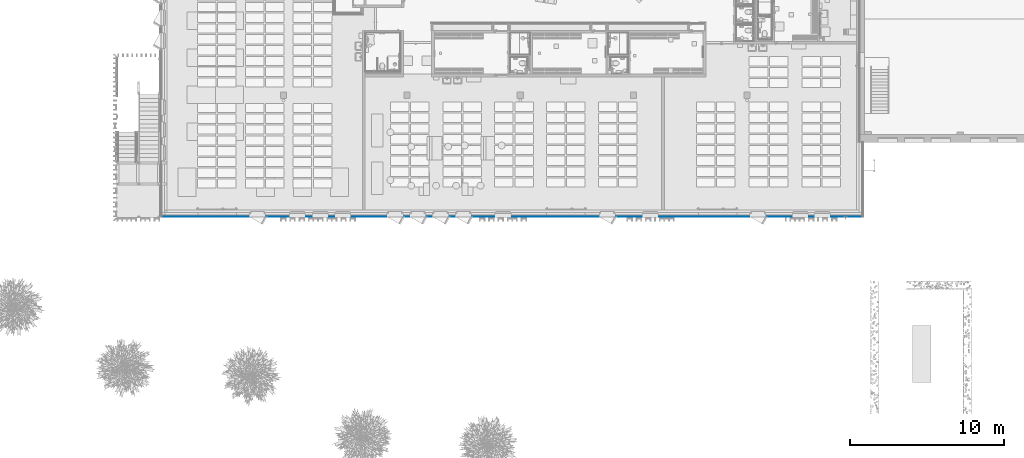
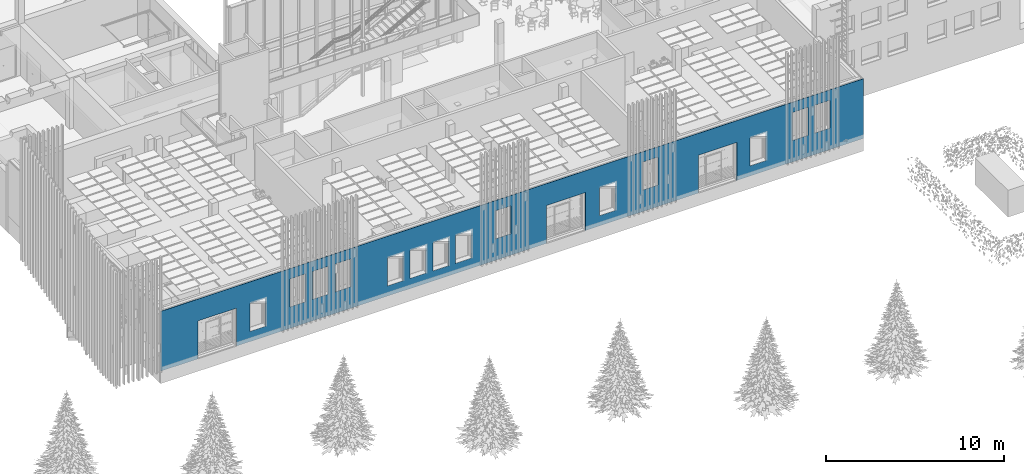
# One storey, part 177 of 301: 1 building element part, 20 openings, 1 element without a shape of its own.
"""IFC2X3 building model written with IfcOpenShell, lengths in millimetres."""

from ifc_helpers import new_model, entity, si_unit, converted_unit, derived_unit, money_unit, direction, frame, origin_with_axes, place, context, subcontext, project, spatial, faceted_brep, material, type_object, element, aggregate, save


model = new_model("IFC2X3")

# Units and contexts
model_context = context("Model", 3, precision=0.01, world=origin_with_axes(), true_north=direction((0.0, 1.0)))
body_context = subcontext(model_context, "Body", "Model", "MODEL_VIEW")
ifc_project = project(units=[si_unit("LENGTHUNIT", "METRE", prefix="MILLI"), si_unit("AREAUNIT", "SQUARE_METRE"), si_unit("VOLUMEUNIT", "CUBIC_METRE"), converted_unit("PLANEANGLEUNIT", "DEGREE", entity("IfcPlaneAngleMeasure", 0.0174532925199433), si_unit("PLANEANGLEUNIT", "RADIAN"), dimensions=[0, 0, 0, 0, 0, 0, 0]), money_unit("EUR"), converted_unit("TIMEUNIT", "Year", entity("IfcTimeMeasure", 31557600.0), si_unit("TIMEUNIT", "SECOND"), dimensions=[0, 0, 1, 0, 0, 0, 0]), si_unit("MASSUNIT", "GRAM", prefix="KILO"), si_unit("THERMODYNAMICTEMPERATUREUNIT", "DEGREE_CELSIUS"), si_unit("LUMINOUSINTENSITYUNIT", "LUMEN"), si_unit("ENERGYUNIT", "JOULE", prefix="MEGA"), derived_unit("THERMALCONDUCTANCEUNIT", [(si_unit("POWERUNIT", "WATT"), 1), (si_unit("LENGTHUNIT", "METRE"), -1), (si_unit("THERMODYNAMICTEMPERATUREUNIT", "KELVIN"), -1)]), derived_unit("SPECIFICHEATCAPACITYUNIT", [(si_unit("ENERGYUNIT", "JOULE"), 1), (si_unit("MASSUNIT", "GRAM", prefix="KILO"), -1), (si_unit("THERMODYNAMICTEMPERATUREUNIT", "KELVIN"), -1)]), derived_unit("MASSDENSITYUNIT", [(si_unit("MASSUNIT", "GRAM", prefix="KILO"), 1), (si_unit("VOLUMEUNIT", "CUBIC_METRE"), -1)])], contexts=[model_context])

# Site, building, storey
site_placement = place(None, frame((0.0, 0.0, 8650.0), z_axis=(0.0, 0.0, 1.0), x_axis=(1.0, 0.0, 0.0)))
site = spatial("IfcSite", under=ifc_project, at=site_placement, Name="43301:001:0844", CompositionType="ELEMENT")
building_placement = place(site_placement, origin_with_axes())
building = spatial("IfcBuilding", under=site, at=building_placement, Name="Kuressaare Ametikooli tuulikute mehaanikute õppekorpus", CompositionType="ELEMENT")
storey_placement = place(building_placement, origin_with_axes())
storey = spatial("IfcBuildingStorey", under=building, at=storey_placement, Name="1.korrus", CompositionType="ELEMENT", Elevation=0.0)

# Wall, openings, building element part
wall_type = type_object("IfcWallType", Name="VS1 437", PredefinedType="NOTDEFINED")
wall_placement = place(storey_placement, frame((133024.9464416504, 9123.838490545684, 0.0), z_axis=(0.0, 0.0, 1.0), x_axis=(-1.0, 0.0, 0.0)))
wall = element("IfcWall", 1, at=wall_placement, inside=storey, type_object=wall_type, Name="Sisesein")
opening_1_placement = place(wall_placement, frame((26976.99415685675, 0.0, 700.0), z_axis=(0.0, 0.0, 1.0), x_axis=(1.0, 0.0, 0.0)))
element("IfcOpeningElement", 2, at=opening_1_placement, cuts=wall, Name="A-1g", context=body_context, shape_type="Brep", body=[
    faceted_brep([(-504.9999999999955, 219.9999999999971, 0.0), (-504.9999999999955, 219.9999999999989, 1910.0), (-504.9999999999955, 437.9999999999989, 1910.0), (-504.9999999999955, 437.9999999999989, 0.0), (-504.9999999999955, -1.000000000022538, 0.0), (-504.9999999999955, -1.000000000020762, 1910.0), (504.9999999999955, 219.9999999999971, 1910.0), (504.9999999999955, 437.9999999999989, 1910.0), (504.9999999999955, -1.000000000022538, 1910.0), (504.9999999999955, 437.9999999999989, 0.0), (504.9999999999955, 219.9999999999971, 0.0), (504.9999999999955, -1.000000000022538, 0.0)], [[[0, 1, 2, 3]], [[1, 0, 4, 5]], [[6, 7, 2, 1, 5, 8]], [[7, 9, 3, 2]], [[0, 3, 9, 10, 11, 4]], [[5, 4, 11, 8]], [[6, 10, 9, 7]], [[10, 6, 8, 11]]]),
])
opening_2_placement = place(wall_placement, frame((29926.99415685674, 0.0, 700.0000000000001), z_axis=(0.0, 0.0, 1.0), x_axis=(1.0, 0.0, 0.0)))
element("IfcOpeningElement", 3, at=opening_2_placement, cuts=wall, Name="A-1g", context=body_context, shape_type="Brep", body=[
    faceted_brep([(-504.9999999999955, 219.9999999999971, 0.0), (-504.9999999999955, 219.9999999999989, 1910.0), (-504.9999999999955, 437.9999999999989, 1910.0), (-504.9999999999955, 437.9999999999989, 0.0), (-504.9999999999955, -1.000000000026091, 0.0), (-504.9999999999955, -1.000000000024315, 1910.0), (504.9999999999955, 219.9999999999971, 1910.0), (504.9999999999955, 437.9999999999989, 1910.0), (504.9999999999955, -1.000000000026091, 1910.0), (504.9999999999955, 437.9999999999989, 0.0), (504.9999999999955, 219.9999999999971, 0.0), (504.9999999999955, -1.000000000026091, 0.0)], [[[0, 1, 2, 3]], [[1, 0, 4, 5]], [[6, 7, 2, 1, 5, 8]], [[7, 9, 3, 2]], [[0, 3, 9, 10, 11, 4]], [[5, 4, 11, 8]], [[6, 10, 9, 7]], [[10, 6, 8, 11]]]),
])
opening_3_placement = place(wall_placement, frame((2241.190539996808, 0.0, 1475.000000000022), z_axis=(0.0, 0.0, 1.0), x_axis=(1.0, 0.0, 0.0)))
element("IfcOpeningElement", 4, at=opening_3_placement, cuts=wall, Name="A-1g,SE", context=body_context, shape_type="Brep", body=[
    faceted_brep([(-504.9999999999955, 220.0000000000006, 0.0), (-504.9999999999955, 220.0000000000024, 1910.0), (-504.9999999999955, 437.9999999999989, 1910.0), (-504.9999999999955, 437.9999999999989, 0.0), (-504.9999999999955, -1.000000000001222, 0.0), (-504.9999999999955, -0.9999999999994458, 1910.0), (504.9999999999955, 220.0000000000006, 1910.0), (504.9999999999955, 437.9999999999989, 1910.0), (504.9999999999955, -1.000000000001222, 1910.0), (504.9999999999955, 437.9999999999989, 0.0), (504.9999999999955, 220.0000000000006, 0.0), (504.9999999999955, -1.000000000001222, 0.0)], [[[0, 1, 2, 3]], [[1, 0, 4, 5]], [[6, 7, 2, 1, 5, 8]], [[7, 9, 3, 2]], [[0, 3, 9, 10, 11, 4]], [[5, 4, 11, 8]], [[6, 10, 9, 7]], [[10, 6, 8, 11]]]),
])
opening_4_placement = place(wall_placement, frame((13381.72835363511, 0.0, 1475.000000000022), z_axis=(0.0, 0.0, 1.0), x_axis=(1.0, 0.0, 0.0)))
element("IfcOpeningElement", 5, at=opening_4_placement, cuts=wall, Name="A-1g,SE", context=body_context, shape_type="Brep", body=[
    faceted_brep([(-504.9999999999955, 219.9999999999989, 0.0), (-504.9999999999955, 220.0000000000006, 1910.0), (-504.9999999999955, 437.9999999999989, 1910.0), (-504.9999999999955, 437.9999999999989, 0.0), (-504.9999999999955, -1.000000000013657, 0.0), (-504.9999999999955, -1.00000000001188, 1910.0), (504.9999999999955, 219.9999999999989, 1910.0), (504.9999999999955, 437.9999999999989, 1910.0), (504.9999999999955, -1.000000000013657, 1910.0), (504.9999999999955, 437.9999999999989, 0.0), (504.9999999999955, 219.9999999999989, 0.0), (504.9999999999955, -1.000000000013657, 0.0)], [[[0, 1, 2, 3]], [[1, 0, 4, 5]], [[6, 7, 2, 1, 5, 8]], [[7, 9, 3, 2]], [[0, 3, 9, 10, 11, 4]], [[5, 4, 11, 8]], [[6, 10, 9, 7]], [[10, 6, 8, 11]]]),
])
opening_5_placement = place(wall_placement, frame((25501.99415685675, 0.0, 700.0), z_axis=(0.0, 0.0, 1.0), x_axis=(1.0, 0.0, 0.0)))
element("IfcOpeningElement", 6, at=opening_5_placement, cuts=wall, Name="A-1g", context=body_context, shape_type="Brep", body=[
    faceted_brep([(-504.9999999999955, 219.9999999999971, 0.0), (-504.9999999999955, 219.9999999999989, 1910.0), (-504.9999999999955, 437.9999999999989, 1910.0), (-504.9999999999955, 437.9999999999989, 0.0), (-504.9999999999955, -1.000000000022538, 0.0), (-504.9999999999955, -1.000000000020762, 1910.0), (504.9999999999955, 219.9999999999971, 1910.0), (504.9999999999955, 437.9999999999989, 1910.0), (504.9999999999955, -1.000000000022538, 1910.0), (504.9999999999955, 437.9999999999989, 0.0), (504.9999999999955, 219.9999999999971, 0.0), (504.9999999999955, -1.000000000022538, 0.0)], [[[0, 1, 2, 3]], [[1, 0, 4, 5]], [[6, 7, 2, 1, 5, 8]], [[7, 9, 3, 2]], [[0, 3, 9, 10, 11, 4]], [[5, 4, 11, 8]], [[6, 10, 9, 7]], [[10, 6, 8, 11]]]),
])
opening_6_placement = place(wall_placement, frame((6401.877929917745, 0.0, 700.0), z_axis=(0.0, 0.0, 1.0), x_axis=(1.0, 0.0, 0.0)))
element("IfcOpeningElement", 7, at=opening_6_placement, cuts=wall, Name="A-1g", context=body_context, shape_type="Brep", body=[
    faceted_brep([(-504.9999999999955, 220.0000000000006, 0.0), (-504.9999999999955, 220.0000000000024, 1910.0), (-504.9999999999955, 437.9999999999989, 1910.0), (-504.9999999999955, 437.9999999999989, 0.0), (-504.9999999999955, -1.000000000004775, 0.0), (-504.9999999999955, -1.000000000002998, 1910.0), (504.9999999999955, 220.0000000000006, 1910.0), (504.9999999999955, 437.9999999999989, 1910.0), (504.9999999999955, -1.000000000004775, 1910.0), (504.9999999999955, 437.9999999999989, 0.0), (504.9999999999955, 220.0000000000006, 0.0), (504.9999999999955, -1.000000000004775, 0.0)], [[[0, 1, 2, 3]], [[1, 0, 4, 5]], [[6, 7, 2, 1, 5, 8]], [[7, 9, 3, 2]], [[0, 3, 9, 10, 11, 4]], [[5, 4, 11, 8]], [[6, 10, 9, 7]], [[10, 6, 8, 11]]]),
])
opening_7_placement = place(wall_placement, frame((22926.99691245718, 0.0, 1475.000000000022), z_axis=(0.0, 0.0, 1.0), x_axis=(1.0, 0.0, 0.0)))
element("IfcOpeningElement", 8, at=opening_7_placement, cuts=wall, Name="A-1g,SE", context=body_context, shape_type="Brep", body=[
    faceted_brep([(-504.9999999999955, 219.9999999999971, 0.0), (-504.9999999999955, 219.9999999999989, 1910.0), (-504.9999999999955, 437.9999999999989, 1910.0), (-504.9999999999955, 437.9999999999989, 0.0), (-504.9999999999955, -1.000000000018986, 0.0), (-504.9999999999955, -1.000000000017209, 1910.0), (504.9999999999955, 219.9999999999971, 1910.0), (504.9999999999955, 437.9999999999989, 1910.0), (504.9999999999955, -1.000000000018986, 1910.0), (504.9999999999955, 437.9999999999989, 0.0), (504.9999999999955, 219.9999999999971, 0.0), (504.9999999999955, -1.000000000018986, 0.0)], [[[0, 1, 2, 3]], [[1, 0, 4, 5]], [[6, 7, 2, 1, 5, 8]], [[7, 9, 3, 2]], [[0, 3, 9, 10, 11, 4]], [[5, 4, 11, 8]], [[6, 10, 9, 7]], [[10, 6, 8, 11]]]),
])
opening_8_placement = place(wall_placement, frame((38843.87792991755, 0.0, 700.0), z_axis=(0.0, 0.0, 1.0), x_axis=(1.0, 0.0, 0.0)))
element("IfcOpeningElement", 9, at=opening_8_placement, cuts=wall, Name="A-1g", context=body_context, shape_type="Brep", body=[
    faceted_brep([(-504.9999999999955, 219.9999999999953, 0.0), (-504.9999999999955, 219.9999999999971, 1910.0), (-504.9999999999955, 437.9999999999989, 1910.0), (-504.9999999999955, 437.9999999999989, 0.0), (-504.9999999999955, -1.000000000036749, 0.0), (-504.9999999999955, -1.000000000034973, 1910.0), (504.9999999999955, 219.9999999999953, 1910.0), (504.9999999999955, 437.9999999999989, 1910.0), (504.9999999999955, -1.000000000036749, 1910.0), (504.9999999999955, 437.9999999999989, 0.0), (504.9999999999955, 219.9999999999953, 0.0), (504.9999999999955, -1.000000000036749, 0.0)], [[[0, 1, 2, 3]], [[1, 0, 4, 5]], [[6, 7, 2, 1, 5, 8]], [[7, 9, 3, 2]], [[0, 3, 9, 10, 11, 4]], [[5, 4, 11, 8]], [[6, 10, 9, 7]], [[10, 6, 8, 11]]]),
])
opening_9_placement = place(wall_placement, frame((16176.99691245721, 0.0, 700.0), z_axis=(0.0, 0.0, 1.0), x_axis=(1.0, 0.0, 0.0)))
element("IfcOpeningElement", 10, at=opening_9_placement, cuts=wall, Name="A-1g", context=body_context, shape_type="Brep", body=[
    faceted_brep([(-504.9999999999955, 219.9999999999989, 0.0), (-504.9999999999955, 220.0000000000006, 1910.0), (-504.9999999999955, 437.9999999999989, 1910.0), (-504.9999999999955, 437.9999999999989, 0.0), (-504.9999999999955, -1.000000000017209, 0.0), (-504.9999999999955, -1.000000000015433, 1910.0), (504.9999999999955, 219.9999999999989, 1910.0), (504.9999999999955, 437.9999999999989, 1910.0), (504.9999999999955, -1.000000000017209, 1910.0), (504.9999999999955, 437.9999999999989, 0.0), (504.9999999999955, 219.9999999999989, 0.0), (504.9999999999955, -1.000000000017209, 0.0)], [[[0, 1, 2, 3]], [[1, 0, 4, 5]], [[6, 7, 2, 1, 5, 8]], [[7, 9, 3, 2]], [[0, 3, 9, 10, 11, 4]], [[5, 4, 11, 8]], [[6, 10, 9, 7]], [[10, 6, 8, 11]]]),
])
opening_10_placement = place(wall_placement, frame((3661.862783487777, 0.0, 1475.000000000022), z_axis=(0.0, 0.0, 1.0), x_axis=(1.0, 0.0, 0.0)))
element("IfcOpeningElement", 11, at=opening_10_placement, cuts=wall, Name="A-1g,SE", context=body_context, shape_type="Brep", body=[
    faceted_brep([(-504.9999999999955, 220.0000000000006, 0.0), (-504.9999999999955, 220.0000000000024, 1910.0), (-504.9999999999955, 437.9999999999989, 1910.0), (-504.9999999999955, 437.9999999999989, 0.0), (-504.9999999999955, -1.000000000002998, 0.0), (-504.9999999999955, -1.000000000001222, 1910.0), (504.9999999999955, 220.0000000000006, 1910.0), (504.9999999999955, 437.9999999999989, 1910.0), (504.9999999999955, -1.000000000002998, 1910.0), (504.9999999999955, 437.9999999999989, 0.0), (504.9999999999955, 220.0000000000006, 0.0), (504.9999999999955, -1.000000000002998, 0.0)], [[[0, 1, 2, 3]], [[1, 0, 4, 5]], [[6, 7, 2, 1, 5, 8]], [[7, 9, 3, 2]], [[0, 3, 9, 10, 11, 4]], [[5, 4, 11, 8]], [[6, 10, 9, 7]], [[10, 6, 8, 11]]]),
])
opening_11_placement = place(wall_placement, frame((36251.877858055, 0.0, 1475.000000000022), z_axis=(0.0, 0.0, 1.0), x_axis=(1.0, 0.0, 0.0)))
element("IfcOpeningElement", 12, at=opening_11_placement, cuts=wall, Name="A-1g,SE", context=body_context, shape_type="Brep", body=[
    faceted_brep([(-504.9999999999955, 219.9999999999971, 0.0), (-504.9999999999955, 219.9999999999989, 1910.0), (-504.9999999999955, 437.9999999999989, 1910.0), (-504.9999999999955, 437.9999999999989, 0.0), (-504.9999999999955, -1.00000000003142, 0.0), (-504.9999999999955, -1.000000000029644, 1910.0), (504.9999999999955, 219.9999999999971, 1910.0), (504.9999999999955, 437.9999999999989, 1910.0), (504.9999999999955, -1.00000000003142, 1910.0), (504.9999999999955, 437.9999999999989, 0.0), (504.9999999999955, 219.9999999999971, 0.0), (504.9999999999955, -1.00000000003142, 0.0)], [[[0, 1, 2, 3]], [[1, 0, 4, 5]], [[6, 7, 2, 1, 5, 8]], [[7, 9, 3, 2]], [[0, 3, 9, 10, 11, 4]], [[5, 4, 11, 8]], [[6, 10, 9, 7]], [[10, 6, 8, 11]]]),
])
opening_12_placement = place(wall_placement, frame((33301.87785805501, 0.0, 1475.000000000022), z_axis=(0.0, 0.0, 1.0), x_axis=(1.0, 0.0, 0.0)))
element("IfcOpeningElement", 13, at=opening_12_placement, cuts=wall, Name="A-1g,SE", context=body_context, shape_type="Brep", body=[
    faceted_brep([(-504.9999999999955, 219.9999999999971, 0.0), (-504.9999999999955, 219.9999999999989, 1910.0), (-504.9999999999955, 437.9999999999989, 1910.0), (-504.9999999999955, 437.9999999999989, 0.0), (-504.9999999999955, -1.000000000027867, 0.0), (-504.9999999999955, -1.000000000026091, 1910.0), (504.9999999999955, 219.9999999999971, 1910.0), (504.9999999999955, 437.9999999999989, 1910.0), (504.9999999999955, -1.000000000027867, 1910.0), (504.9999999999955, 437.9999999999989, 0.0), (504.9999999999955, 219.9999999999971, 0.0), (504.9999999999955, -1.000000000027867, 0.0)], [[[0, 1, 2, 3]], [[1, 0, 4, 5]], [[6, 7, 2, 1, 5, 8]], [[7, 9, 3, 2]], [[0, 3, 9, 10, 11, 4]], [[5, 4, 11, 8]], [[6, 10, 9, 7]], [[10, 6, 8, 11]]]),
])
opening_13_placement = place(wall_placement, frame((34776.877858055, 0.0, 1475.000000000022), z_axis=(0.0, 0.0, 1.0), x_axis=(1.0, 0.0, 0.0)))
element("IfcOpeningElement", 14, at=opening_13_placement, cuts=wall, Name="A-1g,SE", context=body_context, shape_type="Brep", body=[
    faceted_brep([(-504.9999999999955, 219.9999999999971, 0.0), (-504.9999999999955, 219.9999999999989, 1910.0), (-504.9999999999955, 437.9999999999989, 1910.0), (-504.9999999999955, 437.9999999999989, 0.0), (-504.9999999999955, -1.000000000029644, 0.0), (-504.9999999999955, -1.000000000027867, 1910.0), (504.9999999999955, 219.9999999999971, 1910.0), (504.9999999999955, 437.9999999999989, 1910.0), (504.9999999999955, -1.000000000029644, 1910.0), (504.9999999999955, 437.9999999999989, 0.0), (504.9999999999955, 219.9999999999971, 0.0), (504.9999999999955, -1.000000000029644, 0.0)], [[[0, 1, 2, 3]], [[1, 0, 4, 5]], [[6, 7, 2, 1, 5, 8]], [[7, 9, 3, 2]], [[0, 3, 9, 10, 11, 4]], [[5, 4, 11, 8]], [[6, 10, 9, 7]], [[10, 6, 8, 11]]]),
])
opening_14_placement = place(wall_placement, frame((18848.67342500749, 0.0, 0.0), z_axis=(0.0, 0.0, 1.0), x_axis=(1.0, 0.0, 0.0)))
element("IfcOpeningElement", 15, at=opening_14_placement, cuts=wall, Name="Ava seinas", context=body_context, shape_type="Brep", body=[
    faceted_brep([(-1219.999999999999, 139.9999999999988, 0.0), (-1219.999999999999, 140.0000000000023, 2570.0), (-1219.999999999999, 438.0000000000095, 2570.0), (-1219.999999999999, 438.0000000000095, 0.0), (1219.999999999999, 140.0000000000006, 2570.0), (-1250.0, 139.9999999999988, 0.0), (-1250.0, 140.0000000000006, 2600.0), (1250.0, 139.9999999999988, 2600.0), (1250.0, 139.9999999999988, 0.0), (1219.999999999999, 139.9999999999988, 0.0), (1219.999999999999, 438.0000000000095, 2570.0), (1219.999999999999, 438.0000000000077, 0.0), (1250.0, -1.00000000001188, 0.0), (-1250.0, -1.00000000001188, 0.0), (-1250.0, -1.000000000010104, 2600.0), (1250.0, -1.00000000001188, 2600.0)], [[[0, 1, 2, 3]], [[4, 1, 0, 5, 6, 7, 8, 9]], [[1, 4, 10, 2]], [[10, 11, 3, 2]], [[9, 0, 3, 11]], [[0, 9, 8, 12, 13, 5]], [[6, 5, 13, 14]], [[7, 6, 14, 15]], [[8, 7, 15, 12]], [[4, 9, 11, 10]], [[14, 13, 12, 15]]]),
])
opening_15_placement = place(wall_placement, frame((41461.22668595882, 0.0, 0.0), z_axis=(0.0, 0.0, 1.0), x_axis=(1.0, 0.0, 0.0)))
element("IfcOpeningElement", 16, at=opening_15_placement, cuts=wall, Name="Ava seinas", context=body_context, shape_type="Brep", body=[
    faceted_brep([(-1219.999999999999, 139.9999999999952, 0.0), (-1219.999999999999, 139.999999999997, 2570.0), (-1219.999999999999, 438.0000000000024, 2570.0), (-1219.999999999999, 438.0000000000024, 0.0), (1219.999999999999, 139.9999999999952, 2570.0), (-1250.0, 139.9999999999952, 0.0), (-1250.0, 139.999999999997, 2600.0), (1250.0, 139.9999999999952, 2600.0), (1250.0, 139.9999999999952, 0.0), (1219.999999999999, 139.9999999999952, 0.0), (1219.999999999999, 438.0000000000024, 2570.0), (1219.999999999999, 438.0000000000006, 0.0), (1250.0, -1.000000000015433, 0.0), (-1250.0, -1.000000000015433, 0.0), (-1250.0, -1.000000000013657, 2600.0), (1250.0, -1.000000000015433, 2600.0)], [[[0, 1, 2, 3]], [[4, 1, 0, 5, 6, 7, 8, 9]], [[1, 4, 10, 2]], [[10, 11, 3, 2]], [[9, 0, 3, 11]], [[0, 9, 8, 12, 13, 5]], [[6, 5, 13, 14]], [[7, 6, 14, 15]], [[8, 7, 15, 12]], [[4, 9, 11, 10]], [[14, 13, 12, 15]]]),
])
opening_16_placement = place(wall_placement, frame((18848.67342500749, 0.0, 0.0), z_axis=(0.0, 0.0, 1.0), x_axis=(1.0, 0.0, 0.0)))
element("IfcOpeningElement", 17, at=opening_16_placement, cuts=wall, Name="TÕU25x26", context=body_context, shape_type="Brep", body=[
    faceted_brep([(-1250.0, 436.9999999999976, 0.0), (-1250.0, 436.9999999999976, 2600.0), (-1250.0, 437.9999999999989, 2600.0), (-1250.0, 437.9999999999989, 0.0), (-1250.0, -0.9999999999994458, 0.0), (-1250.0, -0.9999999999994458, 2600.0), (1250.0, 436.9999999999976, 2600.0), (1250.0, 437.9999999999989, 2600.0), (1250.0, 437.9999999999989, 0.0), (1250.0, 436.9999999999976, 0.0), (1250.0, -0.9999999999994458, 0.0), (1250.0, -0.9999999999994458, 2600.0)], [[[0, 1, 2, 3]], [[1, 0, 4, 5]], [[1, 6, 7, 2]], [[8, 3, 2, 7]], [[9, 0, 3, 8]], [[0, 9, 10, 4]], [[5, 4, 10, 11]], [[6, 1, 5, 11]], [[6, 9, 8, 7]], [[9, 6, 11, 10]]]),
])
opening_17_placement = place(wall_placement, frame((9019.226685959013, 0.0, 0.0), z_axis=(0.0, 0.0, 1.0), x_axis=(1.0, 0.0, 0.0)))
element("IfcOpeningElement", 18, at=opening_17_placement, cuts=wall, Name="Ava seinas", context=body_context, shape_type="Brep", body=[
    faceted_brep([(-1219.999999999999, 139.9999999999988, 0.0), (-1219.999999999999, 140.0000000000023, 2570.0), (-1219.999999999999, 438.0000000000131, 2570.0), (-1219.999999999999, 438.0000000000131, 0.0), (1219.999999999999, 140.0000000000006, 2570.0), (-1250.0, 139.9999999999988, 0.0), (-1250.0, 140.0000000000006, 2600.0), (1250.0, 139.9999999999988, 2600.0), (1250.0, 139.9999999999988, 0.0), (1219.999999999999, 139.9999999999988, 0.0), (1219.999999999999, 438.0000000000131, 2570.0), (1219.999999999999, 438.0000000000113, 0.0), (1250.0, -1.000000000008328, 0.0), (-1250.0, -1.000000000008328, 0.0), (-1250.0, -1.000000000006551, 2600.0), (1250.0, -1.000000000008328, 2600.0)], [[[0, 1, 2, 3]], [[4, 1, 0, 5, 6, 7, 8, 9]], [[1, 4, 10, 2]], [[10, 11, 3, 2]], [[9, 0, 3, 11]], [[0, 9, 8, 12, 13, 5]], [[6, 5, 13, 14]], [[7, 6, 14, 15]], [[8, 7, 15, 12]], [[4, 9, 11, 10]], [[14, 13, 12, 15]]]),
])
opening_18_placement = place(wall_placement, frame((28451.99415685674, 0.0, 700.0), z_axis=(0.0, 0.0, 1.0), x_axis=(1.0, 0.0, 0.0)))
element("IfcOpeningElement", 19, at=opening_18_placement, cuts=wall, Name="A-1g", context=body_context, shape_type="Brep", body=[
    faceted_brep([(-504.9999999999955, 219.9999999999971, 0.0), (-504.9999999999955, 219.9999999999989, 1910.0), (-504.9999999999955, 437.9999999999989, 1910.0), (-504.9999999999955, 437.9999999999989, 0.0), (-504.9999999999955, -1.000000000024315, 0.0), (-504.9999999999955, -1.000000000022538, 1910.0), (504.9999999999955, 219.9999999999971, 1910.0), (504.9999999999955, 437.9999999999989, 1910.0), (504.9999999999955, -1.000000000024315, 1910.0), (504.9999999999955, 437.9999999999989, 0.0), (504.9999999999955, 219.9999999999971, 0.0), (504.9999999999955, -1.000000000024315, 0.0)], [[[0, 1, 2, 3]], [[1, 0, 4, 5]], [[6, 7, 2, 1, 5, 8]], [[7, 9, 3, 2]], [[0, 3, 9, 10, 11, 4]], [[5, 4, 11, 8]], [[6, 10, 9, 7]], [[10, 6, 8, 11]]]),
])
opening_19_placement = place(wall_placement, frame((9019.226685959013, 0.0, 0.0), z_axis=(0.0, 0.0, 1.0), x_axis=(1.0, 0.0, 0.0)))
element("IfcOpeningElement", 20, at=opening_19_placement, cuts=wall, Name="TÕU25x26", context=body_context, shape_type="Brep", body=[
    faceted_brep([(-1250.0, 436.9999999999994, 0.0), (-1250.0, 436.9999999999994, 2600.0), (-1250.0, 438.0000000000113, 2600.0), (-1250.0, 438.0000000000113, 0.0), (-1250.0, -1.000000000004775, 0.0), (-1250.0, -1.000000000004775, 2600.0), (1250.0, 436.9999999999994, 2600.0), (1250.0, 438.0000000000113, 2600.0), (1250.0, 438.0000000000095, 0.0), (1250.0, 436.9999999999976, 0.0), (1250.0, -1.000000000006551, 0.0), (1250.0, -1.000000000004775, 2600.0)], [[[0, 1, 2, 3]], [[1, 0, 4, 5]], [[1, 6, 7, 2]], [[8, 3, 2, 7]], [[9, 0, 3, 8]], [[0, 9, 10, 4]], [[5, 4, 10, 11]], [[6, 1, 5, 11]], [[6, 9, 8, 7]], [[9, 6, 11, 10]]]),
])
opening_20_placement = place(wall_placement, frame((41461.22668595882, 0.0, 0.0), z_axis=(0.0, 0.0, 1.0), x_axis=(1.0, 0.0, 0.0)))
element("IfcOpeningElement", 21, at=opening_20_placement, cuts=wall, Name="TÕU25x26", context=body_context, shape_type="Brep", body=[
    faceted_brep([(-1250.0, 436.9999999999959, 0.0), (-1250.0, 436.9999999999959, 2600.0), (-1250.0, 438.0000000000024, 2600.0), (-1250.0, 438.0000000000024, 0.0), (-1250.0, -1.000000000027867, 0.0), (-1250.0, -1.000000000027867, 2600.0), (1250.0, 436.9999999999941, 2600.0), (1250.0, 438.0000000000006, 2600.0), (1250.0, 438.0000000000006, 0.0), (1250.0, 436.9999999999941, 0.0), (1250.0, -1.000000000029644, 0.0), (1250.0, -1.000000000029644, 2600.0)], [[[0, 1, 2, 3]], [[1, 0, 4, 5]], [[1, 6, 7, 2]], [[8, 3, 2, 7]], [[9, 0, 3, 8]], [[0, 9, 10, 4]], [[5, 4, 10, 11]], [[6, 1, 5, 11]], [[6, 9, 8, 7]], [[9, 6, 11, 10]]]),
])
ifc_material = material(Name="Puit - voodrilaud")
building_element_part_placement = place(wall_placement, origin_with_axes())
building_element_part = element("IfcBuildingElementPart", 22, at=building_element_part_placement, material=ifc_material, Name="Puit - voodrilaud", context=body_context, shape_type="Brep", body=[
    faceted_brep([(42711.22668595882, 416.9999999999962, 2600.000000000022), (42711.22668595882, 416.9999999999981, 0.0), (45123.71979646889, 416.9999999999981, 0.0), (45123.71979646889, 416.9999999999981, 4100.0), (-437.0000000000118, 416.9999999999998, 4100.0), (-437.0000000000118, 416.9999999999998, 0.0), (7769.226685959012, 416.9999999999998, 0.0), (7769.226685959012, 416.9999999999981, 2600.000000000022), (10269.22668595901, 416.9999999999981, 2600.000000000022), (10269.22668595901, 416.9999999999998, 0.0), (17598.67342500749, 416.9999999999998, 0.0), (17598.67342500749, 416.9999999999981, 2600.000000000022), (20098.67342500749, 416.9999999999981, 2600.000000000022), (20098.67342500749, 416.9999999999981, 0.0), (40211.22668595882, 416.9999999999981, 0.0), (40211.22668595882, 416.9999999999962, 2600.000000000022), (27481.99415685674, 416.9999999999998, 2610.0), (27481.99415685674, 416.9999999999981, 700.0), (26471.99415685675, 416.9999999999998, 700.0), (26471.99415685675, 416.9999999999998, 2610.0), (29421.99415685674, 416.9999999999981, 2610.0), (30431.99415685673, 416.9999999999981, 2610.0), (30431.99415685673, 416.9999999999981, 700.0000000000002), (29421.99415685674, 416.9999999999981, 700.0000000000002), (24996.99415685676, 416.9999999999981, 700.0), (24996.99415685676, 416.9999999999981, 2610.0), (26006.99415685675, 416.9999999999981, 2610.0), (26006.99415685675, 416.9999999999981, 700.0), (2746.190539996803, 417.0000000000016, 1475.000000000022), (1736.190539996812, 417.0000000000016, 1475.000000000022), (1736.190539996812, 417.0000000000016, 3385.000000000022), (2746.190539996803, 417.0000000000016, 3385.000000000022), (13886.72835363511, 416.9999999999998, 3385.000000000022), (13886.72835363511, 416.9999999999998, 1475.000000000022), (12876.72835363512, 416.9999999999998, 1475.000000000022), (12876.72835363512, 416.9999999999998, 3385.000000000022), (22421.99691245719, 416.9999999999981, 3385.000000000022), (23431.99691245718, 416.9999999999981, 3385.000000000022), (23431.99691245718, 416.9999999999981, 1475.000000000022), (22421.99691245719, 416.9999999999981, 1475.000000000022), (5896.877929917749, 416.9999999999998, 700.0), (5896.877929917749, 416.9999999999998, 2610.0), (6906.87792991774, 416.9999999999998, 2610.0), (6906.87792991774, 416.9999999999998, 700.0), (16681.99691245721, 416.9999999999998, 700.0), (15671.99691245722, 416.9999999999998, 700.0), (15671.99691245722, 416.9999999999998, 2610.0), (16681.99691245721, 416.9999999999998, 2610.0), (4166.862783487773, 416.9999999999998, 3385.000000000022), (4166.862783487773, 416.9999999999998, 1475.000000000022), (3156.862783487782, 416.9999999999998, 1475.000000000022), (3156.862783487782, 416.9999999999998, 3385.000000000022), (38338.87792991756, 416.9999999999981, 2610.0), (39348.87792991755, 416.9999999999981, 2610.0), (39348.87792991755, 416.9999999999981, 700.0), (38338.87792991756, 416.9999999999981, 700.0), (32796.87785805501, 416.9999999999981, 1475.000000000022), (32796.87785805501, 416.9999999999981, 3385.000000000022), (33806.87785805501, 416.9999999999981, 3385.000000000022), (33806.87785805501, 416.9999999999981, 1475.000000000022), (35281.877858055, 416.9999999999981, 1475.000000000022), (34271.87785805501, 416.9999999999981, 1475.000000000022), (34271.87785805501, 416.9999999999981, 3385.000000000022), (35281.877858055, 416.9999999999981, 3385.000000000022), (36756.87785805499, 416.9999999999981, 3385.000000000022), (36756.87785805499, 416.9999999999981, 1475.000000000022), (35746.877858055, 416.9999999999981, 1475.000000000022), (35746.877858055, 416.9999999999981, 3385.000000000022), (28956.99415685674, 416.9999999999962, 2610.0), (28956.99415685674, 416.9999999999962, 700.0), (27946.99415685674, 416.9999999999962, 700.0), (27946.99415685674, 416.9999999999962, 2610.0), (42711.22668595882, 436.9999999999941, 2600.000000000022), (42711.22668595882, 436.9999999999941, 0.0), (45123.71979646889, 436.9999999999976, 0.0), (45123.71979646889, 436.9999999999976, 4100.0), (-437.0000000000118, 437.0000000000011, 4100.0), (-437.0000000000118, 436.9999999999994, 0.0), (7769.226685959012, 436.9999999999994, 0.0), (7769.226685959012, 436.9999999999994, 2600.000000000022), (10269.22668595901, 436.9999999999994, 2600.000000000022), (10269.22668595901, 436.9999999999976, 0.0), (17598.67342500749, 436.9999999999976, 0.0), (17598.67342500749, 436.9999999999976, 2600.000000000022), (20098.67342500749, 436.9999999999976, 2600.000000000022), (20098.67342500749, 436.9999999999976, 0.0), (40211.22668595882, 436.9999999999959, 0.0), (40211.22668595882, 436.9999999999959, 2600.000000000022), (27481.99415685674, 436.9999999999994, 700.0), (27481.99415685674, 436.9999999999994, 2610.0), (26471.99415685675, 436.9999999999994, 700.0), (26471.99415685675, 436.9999999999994, 2610.0), (29421.99415685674, 436.9999999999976, 2610.0), (30431.99415685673, 436.9999999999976, 2610.0), (30431.99415685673, 436.9999999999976, 700.0000000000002), (29421.99415685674, 436.9999999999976, 700.0000000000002), (24996.99415685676, 436.9999999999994, 700.0), (24996.99415685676, 436.9999999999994, 2610.0), (26006.99415685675, 436.9999999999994, 2610.0), (26006.99415685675, 436.9999999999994, 700.0), (2746.190539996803, 436.9999999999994, 1475.000000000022), (1736.190539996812, 436.9999999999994, 1475.000000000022), (1736.190539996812, 436.9999999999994, 3385.000000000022), (2746.190539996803, 436.9999999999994, 3385.000000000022), (13886.72835363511, 436.9999999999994, 1475.000000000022), (13886.72835363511, 436.9999999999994, 3385.000000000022), (12876.72835363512, 436.9999999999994, 1475.000000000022), (12876.72835363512, 436.9999999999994, 3385.000000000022), (22421.99691245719, 436.9999999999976, 3385.000000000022), (23431.99691245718, 436.9999999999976, 3385.000000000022), (23431.99691245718, 436.9999999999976, 1475.000000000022), (22421.99691245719, 436.9999999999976, 1475.000000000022), (5896.877929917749, 437.0000000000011, 700.0), (5896.877929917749, 437.0000000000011, 2610.0), (6906.87792991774, 437.0000000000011, 2610.0), (6906.87792991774, 437.0000000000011, 700.0), (16681.99691245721, 436.9999999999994, 700.0), (15671.99691245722, 436.9999999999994, 700.0), (15671.99691245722, 436.9999999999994, 2610.0), (16681.99691245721, 436.9999999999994, 2610.0), (4166.862783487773, 436.9999999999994, 1475.000000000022), (4166.862783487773, 437.0000000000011, 3385.000000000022), (3156.862783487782, 436.9999999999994, 1475.000000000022), (3156.862783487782, 437.0000000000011, 3385.000000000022), (38338.87792991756, 436.9999999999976, 2610.0), (39348.87792991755, 436.9999999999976, 2610.0), (39348.87792991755, 436.9999999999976, 700.0), (38338.87792991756, 436.9999999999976, 700.0), (32796.87785805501, 436.9999999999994, 1475.000000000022), (32796.87785805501, 436.9999999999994, 3385.000000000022), (33806.87785805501, 436.9999999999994, 3385.000000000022), (33806.87785805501, 436.9999999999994, 1475.000000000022), (35281.877858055, 436.9999999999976, 1475.000000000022), (34271.87785805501, 436.9999999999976, 1475.000000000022), (34271.87785805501, 436.9999999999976, 3385.000000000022), (35281.877858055, 436.9999999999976, 3385.000000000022), (36756.87785805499, 436.9999999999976, 1475.000000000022), (36756.87785805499, 436.9999999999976, 3385.000000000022), (35746.877858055, 436.9999999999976, 1475.000000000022), (35746.877858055, 436.9999999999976, 3385.000000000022), (28956.99415685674, 436.9999999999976, 700.0), (28956.99415685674, 436.9999999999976, 2610.0), (27946.99415685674, 436.9999999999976, 700.0), (27946.99415685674, 436.9999999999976, 2610.0)], [[[0, 1, 2, 3, 4, 5, 6, 7, 8, 9, 10, 11, 12, 13, 14, 15], [16, 17, 18, 19], [20, 21, 22, 23], [24, 25, 26, 27], [28, 29, 30, 31], [32, 33, 34, 35], [36, 37, 38, 39], [40, 41, 42, 43], [44, 45, 46, 47], [48, 49, 50, 51], [52, 53, 54, 55], [56, 57, 58, 59], [60, 61, 62, 63], [64, 65, 66, 67], [68, 69, 70, 71]], [[1, 0, 72, 73]], [[1, 73, 74, 2]], [[3, 2, 74, 75]], [[75, 76, 4, 3]], [[4, 76, 77, 5]], [[6, 5, 77, 78]], [[6, 78, 79, 7]], [[7, 79, 80, 8]], [[8, 80, 81, 9]], [[81, 82, 10, 9]], [[82, 83, 11, 10]], [[83, 84, 12, 11]], [[84, 85, 13, 12]], [[86, 14, 13, 85]], [[15, 14, 86, 87]], [[0, 15, 87, 72]], [[88, 17, 16, 89]], [[90, 18, 17, 88]], [[91, 19, 18, 90]], [[89, 16, 19, 91]], [[92, 93, 21, 20]], [[93, 94, 22, 21]], [[94, 95, 23, 22]], [[95, 92, 20, 23]], [[24, 96, 97, 25]], [[25, 97, 98, 26]], [[26, 98, 99, 27]], [[27, 99, 96, 24]], [[29, 28, 100, 101]], [[30, 29, 101, 102]], [[31, 30, 102, 103]], [[28, 31, 103, 100]], [[104, 33, 32, 105]], [[106, 34, 33, 104]], [[107, 35, 34, 106]], [[105, 32, 35, 107]], [[108, 109, 37, 36]], [[109, 110, 38, 37]], [[110, 111, 39, 38]], [[111, 108, 36, 39]], [[40, 112, 113, 41]], [[41, 113, 114, 42]], [[42, 114, 115, 43]], [[43, 115, 112, 40]], [[45, 44, 116, 117]], [[46, 45, 117, 118]], [[47, 46, 118, 119]], [[44, 47, 119, 116]], [[120, 49, 48, 121]], [[122, 50, 49, 120]], [[123, 51, 50, 122]], [[121, 48, 51, 123]], [[124, 125, 53, 52]], [[125, 126, 54, 53]], [[126, 127, 55, 54]], [[127, 124, 52, 55]], [[56, 128, 129, 57]], [[57, 129, 130, 58]], [[58, 130, 131, 59]], [[59, 131, 128, 56]], [[61, 60, 132, 133]], [[62, 61, 133, 134]], [[63, 62, 134, 135]], [[60, 63, 135, 132]], [[136, 65, 64, 137]], [[138, 66, 65, 136]], [[139, 67, 66, 138]], [[137, 64, 67, 139]], [[140, 69, 68, 141]], [[142, 70, 69, 140]], [[143, 71, 70, 142]], [[141, 68, 71, 143]], [[87, 86, 85, 84, 83, 82, 81, 80, 79, 78, 77, 76, 75, 74, 73, 72], [90, 88, 89, 91], [92, 95, 94, 93], [98, 97, 96, 99], [100, 103, 102, 101], [106, 104, 105, 107], [108, 111, 110, 109], [114, 113, 112, 115], [116, 119, 118, 117], [122, 120, 121, 123], [124, 127, 126, 125], [130, 129, 128, 131], [132, 135, 134, 133], [138, 136, 137, 139], [142, 140, 141, 143]]]),
])
aggregate(wall, [building_element_part])

save(model, "model.ifc")
